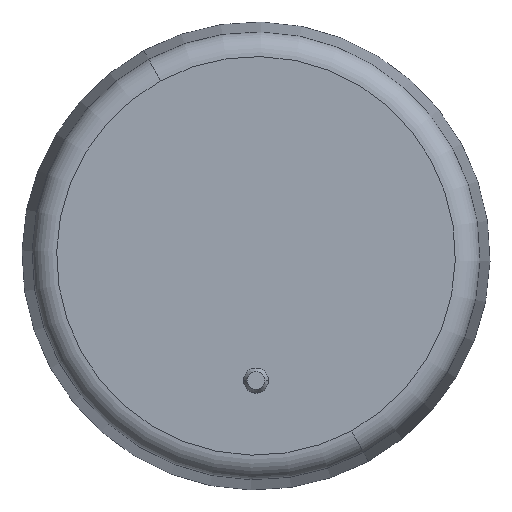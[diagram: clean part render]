
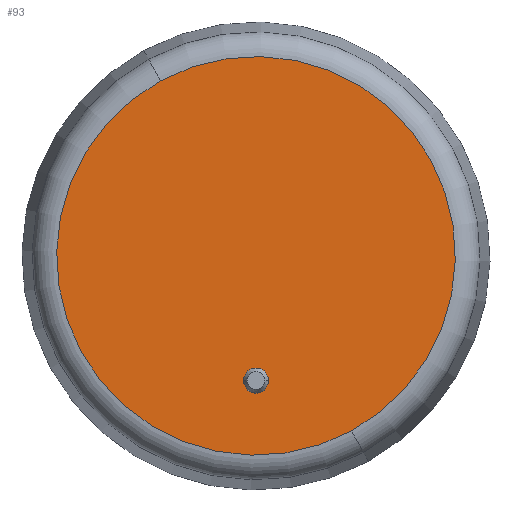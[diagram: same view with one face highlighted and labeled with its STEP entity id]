
A CAD part, top view. The second image highlights one B-rep face of the part: STEP entity #93.
In plain terms, the highlighted planar face has unit normal (0, 0, 1).
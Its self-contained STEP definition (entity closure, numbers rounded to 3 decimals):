
#52=CARTESIAN_POINT('Axis2P3D Location',(0.,63.879,25.)) ;
#57=CARTESIAN_POINT('Axis2P3D Location',(0.,0.,25.)) ;
#61=CARTESIAN_POINT('Vertex',(30.625,-56.059,25.)) ;
#63=CARTESIAN_POINT('Vertex',(-30.625,56.059,25.)) ;
#66=CARTESIAN_POINT('Axis2P3D Location',(0.,0.,25.)) ;
#75=CARTESIAN_POINT('Axis2P3D Location',(0.,-40.,25.)) ;
#79=CARTESIAN_POINT('Vertex',(4.,-40.,25.)) ;
#81=CARTESIAN_POINT('Vertex',(-4.,-40.,25.)) ;
#84=CARTESIAN_POINT('Axis2P3D Location',(0.,-40.,25.)) ;
#53=DIRECTION('Axis2P3D Direction',(0.,0.,1.)) ;
#54=DIRECTION('Axis2P3D XDirection',(1.,0.,0.)) ;
#58=DIRECTION('Axis2P3D Direction',(0.,0.,1.)) ;
#67=DIRECTION('Axis2P3D Direction',(0.,0.,1.)) ;
#76=DIRECTION('Axis2P3D Direction',(0.,0.,1.)) ;
#85=DIRECTION('Axis2P3D Direction',(0.,0.,1.)) ;
#55=AXIS2_PLACEMENT_3D('Plane Axis2P3D',#52,#53,#54) ;
#59=AXIS2_PLACEMENT_3D('Circle Axis2P3D',#57,#58,$) ;
#68=AXIS2_PLACEMENT_3D('Circle Axis2P3D',#66,#67,$) ;
#77=AXIS2_PLACEMENT_3D('Circle Axis2P3D',#75,#76,$) ;
#86=AXIS2_PLACEMENT_3D('Circle Axis2P3D',#84,#85,$) ;
#72=ORIENTED_EDGE('',*,*,#65,.T.) ;
#73=ORIENTED_EDGE('',*,*,#70,.T.) ;
#90=ORIENTED_EDGE('',*,*,#83,.F.) ;
#91=ORIENTED_EDGE('',*,*,#88,.F.) ;
#92=FACE_BOUND('',#89,.T.) ;
#93=ADVANCED_FACE('Corps principal',(#74,#92),#56,.T.) ;
#60=CIRCLE('generated circle',#59,63.879) ;
#69=CIRCLE('generated circle',#68,63.879) ;
#78=CIRCLE('generated circle',#77,4.) ;
#87=CIRCLE('generated circle',#86,4.) ;
#65=EDGE_CURVE('',#62,#64,#60,.T.) ;
#70=EDGE_CURVE('',#64,#62,#69,.T.) ;
#83=EDGE_CURVE('',#80,#82,#78,.T.) ;
#88=EDGE_CURVE('',#82,#80,#87,.T.) ;
#71=EDGE_LOOP('',(#72,#73)) ;
#89=EDGE_LOOP('',(#90,#91)) ;
#74=FACE_OUTER_BOUND('',#71,.T.) ;
#56=PLANE('',#55) ;
#62=VERTEX_POINT('',#61) ;
#64=VERTEX_POINT('',#63) ;
#80=VERTEX_POINT('',#79) ;
#82=VERTEX_POINT('',#81) ;
